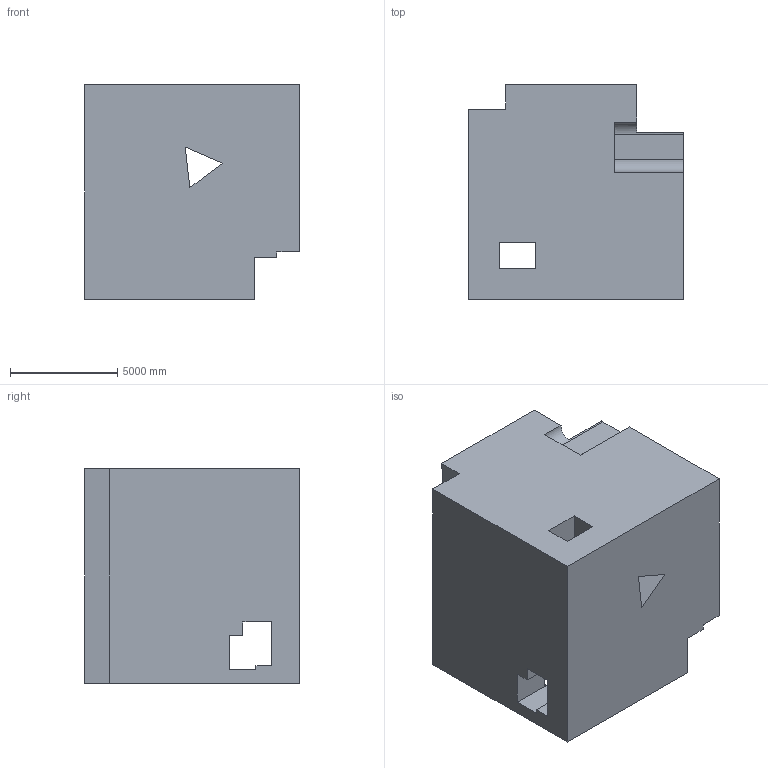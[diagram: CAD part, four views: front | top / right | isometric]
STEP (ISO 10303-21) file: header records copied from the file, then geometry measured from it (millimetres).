
FILE_DESCRIPTION (( 'STEP AP203' ), '1' );
FILE_NAME ('920.STEP', '2022-07-29T14:19:17', ( 'user' ), ( '' ), 'SwSTEP 2.0', 'SolidWorks 2021', '' );
FILE_SCHEMA (( 'CONFIG_CONTROL_DESIGN' ));
Length unit declared in the file: centimetre
Products named in the file (1): 920
Bounding box: 10000 x 10000 x 10000 mm (x, y, z)
Volume: 806303557728.4 mm3; surface area: 779783477.9 mm2
Topology: 1 solids, 1 shells, 49 faces, 147 edges, 98 vertices
Faces by surface type: plane 43, cylinder 6
Entity records: 1733 total; most frequent: CARTESIAN_POINT 295, ORIENTED_EDGE 294, DIRECTION 262, EDGE_CURVE 147, LINE 132, VECTOR 132, VERTEX_POINT 98, AXIS2_PLACEMENT_3D 65
